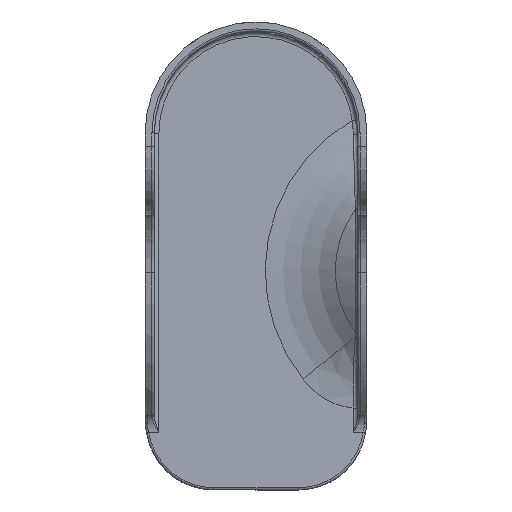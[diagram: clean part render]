
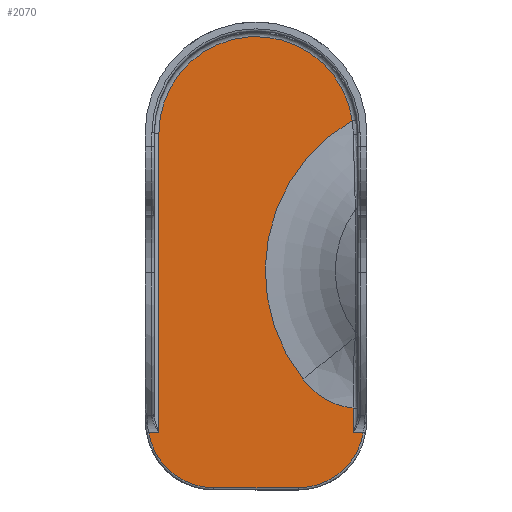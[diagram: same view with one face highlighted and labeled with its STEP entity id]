
A CAD part, top view. The second image highlights one B-rep face of the part: STEP entity #2070.
In plain terms, the highlighted planar face has unit normal (0, 0, 1).
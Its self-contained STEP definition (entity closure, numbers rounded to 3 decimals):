
#66=PLANE('',#2280);
#200=B_SPLINE_CURVE_WITH_KNOTS('',3,(#5074,#5075,#5076,#5077,#5078),
 .UNSPECIFIED.,.F.,.F.,(4,1,4),(-15.573,-15.016,-14.273),
 .UNSPECIFIED.);
#228=LINE('',#2830,#297);
#238=LINE('',#3046,#307);
#264=LINE('',#5065,#333);
#266=LINE('',#5069,#335);
#267=LINE('',#5072,#336);
#297=VECTOR('',#2353,10.);
#307=VECTOR('',#2427,10.);
#333=VECTOR('',#2665,10.);
#335=VECTOR('',#2671,10.);
#336=VECTOR('',#2674,10.);
#471=FACE_OUTER_BOUND('',#620,.T.);
#620=EDGE_LOOP('',(#1718,#1719,#1720,#1721,#1722,#1723,#1724,#1725,#1726,
#1727));
#672=CIRCLE('',#2137,14.414);
#675=CIRCLE('',#2142,14.414);
#771=CIRCLE('',#2281,37.987);
#772=CIRCLE('',#2282,21.25);
#787=VERTEX_POINT('',#2818);
#790=VERTEX_POINT('',#2823);
#792=VERTEX_POINT('',#2828);
#794=VERTEX_POINT('',#2834);
#822=VERTEX_POINT('',#3045);
#941=VERTEX_POINT('',#4226);
#999=VERTEX_POINT('',#5064);
#1000=VERTEX_POINT('',#5071);
#1001=VERTEX_POINT('',#5073);
#1002=VERTEX_POINT('',#5079);
#1013=EDGE_CURVE('',#790,#787,#672,.T.);
#1015=EDGE_CURVE('',#792,#790,#228,.T.);
#1018=EDGE_CURVE('',#794,#792,#675,.T.);
#1058=EDGE_CURVE('',#787,#822,#238,.T.);
#1277=EDGE_CURVE('',#999,#822,#264,.T.);
#1280=EDGE_CURVE('',#941,#794,#266,.T.);
#1281=EDGE_CURVE('',#941,#1000,#267,.T.);
#1282=EDGE_CURVE('',#1001,#1000,#200,.T.);
#1283=EDGE_CURVE('',#1002,#1001,#771,.T.);
#1284=EDGE_CURVE('',#999,#1002,#772,.T.);
#1718=ORIENTED_EDGE('',*,*,#1018,.F.);
#1719=ORIENTED_EDGE('',*,*,#1280,.F.);
#1720=ORIENTED_EDGE('',*,*,#1281,.T.);
#1721=ORIENTED_EDGE('',*,*,#1282,.F.);
#1722=ORIENTED_EDGE('',*,*,#1283,.F.);
#1723=ORIENTED_EDGE('',*,*,#1284,.F.);
#1724=ORIENTED_EDGE('',*,*,#1277,.T.);
#1725=ORIENTED_EDGE('',*,*,#1058,.F.);
#1726=ORIENTED_EDGE('',*,*,#1013,.F.);
#1727=ORIENTED_EDGE('',*,*,#1015,.F.);
#2070=ADVANCED_FACE('',(#471),#66,.T.);
#2137=AXIS2_PLACEMENT_3D('',#2825,#2347,#2348);
#2142=AXIS2_PLACEMENT_3D('',#2836,#2359,#2360);
#2280=AXIS2_PLACEMENT_3D('',#5070,#2672,#2673);
#2281=AXIS2_PLACEMENT_3D('',#5080,#2675,#2676);
#2282=AXIS2_PLACEMENT_3D('',#5081,#2677,#2678);
#2347=DIRECTION('center_axis',(0.,0.,-1.));
#2348=DIRECTION('ref_axis',(-0.648,-0.762,0.));
#2353=DIRECTION('',(-1.,0.,0.));
#2359=DIRECTION('center_axis',(0.,0.,-1.));
#2360=DIRECTION('ref_axis',(0.648,-0.762,0.));
#2427=DIRECTION('',(1.,0.,0.));
#2665=DIRECTION('',(0.,-1.,0.));
#2671=DIRECTION('',(1.,0.,0.));
#2672=DIRECTION('center_axis',(0.,0.,1.));
#2673=DIRECTION('ref_axis',(1.,0.,0.));
#2674=DIRECTION('',(0.,1.,0.));
#2675=DIRECTION('center_axis',(0.,0.,1.));
#2676=DIRECTION('ref_axis',(-1.,0.,0.));
#2677=DIRECTION('center_axis',(0.,0.,-1.));
#2678=DIRECTION('ref_axis',(-0.078,0.997,0.));
#2818=CARTESIAN_POINT('',(-23.46,-65.419,2.));
#2823=CARTESIAN_POINT('',(-9.25,-77.414,2.));
#2825=CARTESIAN_POINT('Origin',(-9.25,-63.,2.));
#2828=CARTESIAN_POINT('',(9.25,-77.414,2.));
#2830=CARTESIAN_POINT('',(7.,-77.414,2.));
#2834=CARTESIAN_POINT('',(23.46,-65.419,2.));
#2836=CARTESIAN_POINT('Origin',(9.25,-63.,2.));
#3045=CARTESIAN_POINT('',(-21.25,-65.419,2.));
#3046=CARTESIAN_POINT('',(-12.125,-65.419,2.));
#4226=CARTESIAN_POINT('',(21.25,-65.419,2.));
#5064=CARTESIAN_POINT('',(-21.25,0.,2.));
#5065=CARTESIAN_POINT('',(-21.25,-45.438,2.));
#5069=CARTESIAN_POINT('',(11.125,-65.419,2.));
#5070=CARTESIAN_POINT('Origin',(0.,-27.875,2.));
#5071=CARTESIAN_POINT('',(21.25,-59.981,2.));
#5072=CARTESIAN_POINT('',(21.25,-13.938,2.));
#5073=CARTESIAN_POINT('',(10.257,-53.629,2.));
#5074=CARTESIAN_POINT('Ctrl Pts',(10.257,-53.629,2.));
#5075=CARTESIAN_POINT('Ctrl Pts',(11.411,-55.082,2.));
#5076=CARTESIAN_POINT('Ctrl Pts',(14.577,-58.179,2.));
#5077=CARTESIAN_POINT('Ctrl Pts',(18.769,-59.791,2.));
#5078=CARTESIAN_POINT('Ctrl Pts',(21.25,-59.981,2.));
#5079=CARTESIAN_POINT('',(21.048,2.922,2.));
#5080=CARTESIAN_POINT('Origin',(40.,-30.,2.));
#5081=CARTESIAN_POINT('Origin',(0.,0.,2.));
